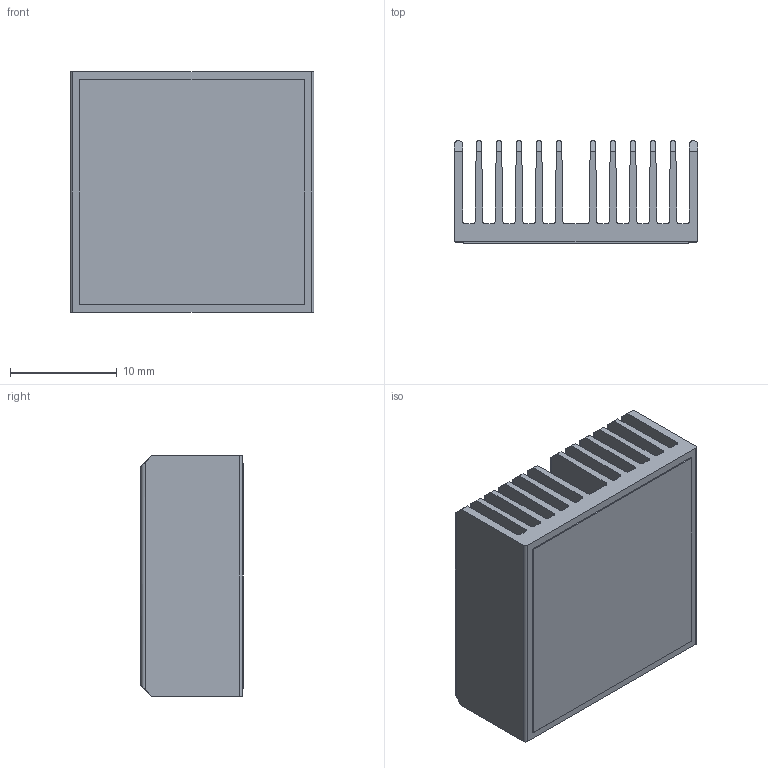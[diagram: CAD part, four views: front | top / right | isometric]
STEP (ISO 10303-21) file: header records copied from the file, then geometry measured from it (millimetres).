
FILE_DESCRIPTION (( 'STEP AP214' ), '1' );
FILE_NAME ('INL23001-10-1.7.STEP', '2023-02-21T17:20:44', ( '' ), ( '' ), 'SwSTEP 2.0', 'SolidWorks 2020', '' );
FILE_SCHEMA (( 'AUTOMOTIVE_DESIGN' ));
Length unit declared in the file: millimetre
Products named in the file (1): INL23001-10-1.7
Bounding box: 22.8 x 9.6 x 22.5 mm (x, y, z)
Volume: 2260.7 mm3; surface area: 6205 mm2
Topology: 2 solids, 2 shells, 104 faces, 300 edges, 200 vertices
Faces by surface type: plane 68, cylinder 36
Entity records: 4579 total; most frequent: CARTESIAN_POINT 677, ORIENTED_EDGE 600, DIRECTION 534, EDGE_CURVE 300, LINE 228, VECTOR 228, VERTEX_POINT 200, AXIS2_PLACEMENT_3D 153
